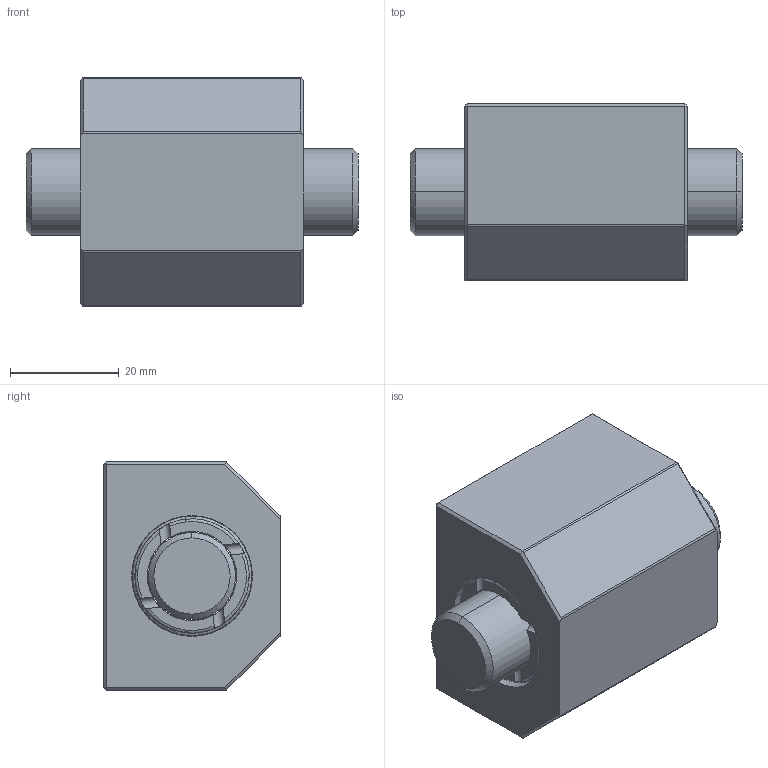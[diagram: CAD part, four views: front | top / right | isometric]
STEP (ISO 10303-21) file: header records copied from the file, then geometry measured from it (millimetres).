
FILE_DESCRIPTION (( 'STEP AP203' ), '1' );
FILE_NAME ('BNTR01605T3-C.STEP', '2020-06-18T01:42:08', ( '' ), ( '' ), 'SwSTEP 2.0', 'SolidWorks 2013', '' );
FILE_SCHEMA (( 'CONFIG_CONTROL_DESIGN' ));
Length unit declared in the file: millimetre
Products named in the file (1): BNTR01605T3-C
Bounding box: 61 x 32.5 x 42 mm (x, y, z)
Volume: 53234.7 mm3; surface area: 15681.9 mm2
Topology: 2 solids, 2 shells, 119 faces, 289 edges, 174 vertices
Faces by surface type: cylinder 50, plane 39, torus 18, cone 12
Entity records: 4116 total; most frequent: CARTESIAN_POINT 1355, ORIENTED_EDGE 562, DIRECTION 557, EDGE_CURVE 281, AXIS2_PLACEMENT_3D 222, VERTEX_POINT 174, EDGE_LOOP 131, FACE_OUTER_BOUND 119
